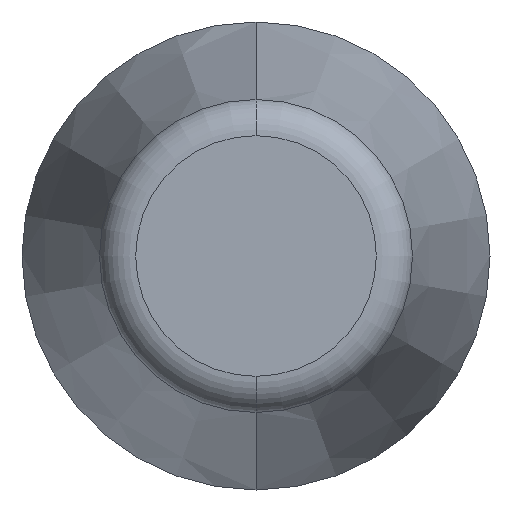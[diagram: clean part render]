
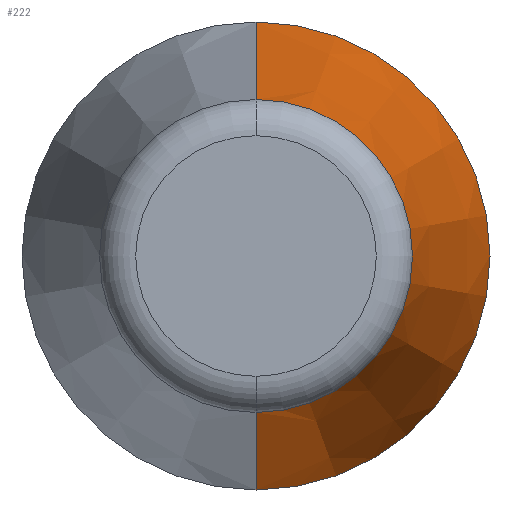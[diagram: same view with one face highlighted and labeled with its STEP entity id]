
A CAD part, front view. The second image highlights one B-rep face of the part: STEP entity #222.
In plain terms, the highlighted conical face has half-angle 11.997 degrees and reference radius 6.1 mm.
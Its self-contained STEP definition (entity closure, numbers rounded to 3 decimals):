
#6 = VERTEX_POINT ( 'NONE', #244 ) ;
#32 = DIRECTION ( 'NONE',  ( 0., 0.978, -0.208 ) ) ;
#48 = VERTEX_POINT ( 'NONE', #297 ) ;
#72 = LINE ( 'NONE', #500, #122 ) ;
#104 = ORIENTED_EDGE ( 'NONE', *, *, #508, .T. ) ;
#107 = DIRECTION ( 'NONE',  ( 0., 0., -1. ) ) ;
#118 = EDGE_CURVE ( 'NONE', #267, #550, #72, .T. ) ;
#122 = VECTOR ( 'NONE', #32, 1000. ) ;
#133 = FACE_OUTER_BOUND ( 'NONE', #231, .T. ) ;
#144 = DIRECTION ( 'NONE',  ( 0., 1., 0. ) ) ;
#165 = DIRECTION ( 'NONE',  ( 0., 1., 0. ) ) ;
#190 = DIRECTION ( 'NONE',  ( 0., -1., 0. ) ) ;
#202 = VECTOR ( 'NONE', #533, 1000. ) ;
#213 = AXIS2_PLACEMENT_3D ( 'NONE', #387, #165, #424 ) ;
#222 = ADVANCED_FACE ( 'NONE', ( #133 ), #452, .T. ) ;
#228 = ORIENTED_EDGE ( 'NONE', *, *, #118, .T. ) ;
#231 = EDGE_LOOP ( 'NONE', ( #104, #228, #351, #448 ) ) ;
#244 = CARTESIAN_POINT ( 'NONE',  ( 0., 16., 9.5 ) ) ;
#252 = AXIS2_PLACEMENT_3D ( 'NONE', #271, #144, #314 ) ;
#267 = VERTEX_POINT ( 'NONE', #328 ) ;
#271 = CARTESIAN_POINT ( 'NONE',  ( 0., 0., 0. ) ) ;
#279 = CARTESIAN_POINT ( 'NONE',  ( 0., 16., 0. ) ) ;
#297 = CARTESIAN_POINT ( 'NONE',  ( 0., 1.188, 6.352 ) ) ;
#314 = DIRECTION ( 'NONE',  ( 0., 0., 1. ) ) ;
#316 = AXIS2_PLACEMENT_3D ( 'NONE', #279, #190, #107 ) ;
#322 = CARTESIAN_POINT ( 'NONE',  ( 0., 16., -9.5 ) ) ;
#328 = CARTESIAN_POINT ( 'NONE',  ( 0., 1.188, -6.352 ) ) ;
#329 = EDGE_CURVE ( 'NONE', #48, #6, #495, .T. ) ;
#345 = EDGE_CURVE ( 'NONE', #550, #6, #385, .T. ) ;
#351 = ORIENTED_EDGE ( 'NONE', *, *, #345, .T. ) ;
#371 = CARTESIAN_POINT ( 'NONE',  ( 0., 0., 6.1 ) ) ;
#385 = CIRCLE ( 'NONE', #316, 9.5 ) ;
#387 = CARTESIAN_POINT ( 'NONE',  ( 0., 1.188, 0. ) ) ;
#424 = DIRECTION ( 'NONE',  ( 0., 0., -1. ) ) ;
#448 = ORIENTED_EDGE ( 'NONE', *, *, #329, .F. ) ;
#452 = CONICAL_SURFACE ( 'NONE', #252, 6.1, 0.209 ) ;
#453 = CIRCLE ( 'NONE', #213, 6.352 ) ;
#495 = LINE ( 'NONE', #371, #202 ) ;
#500 = CARTESIAN_POINT ( 'NONE',  ( 0., 0., -6.1 ) ) ;
#508 = EDGE_CURVE ( 'NONE', #48, #267, #453, .T. ) ;
#533 = DIRECTION ( 'NONE',  ( 0., 0.978, 0.208 ) ) ;
#550 = VERTEX_POINT ( 'NONE', #322 ) ;
